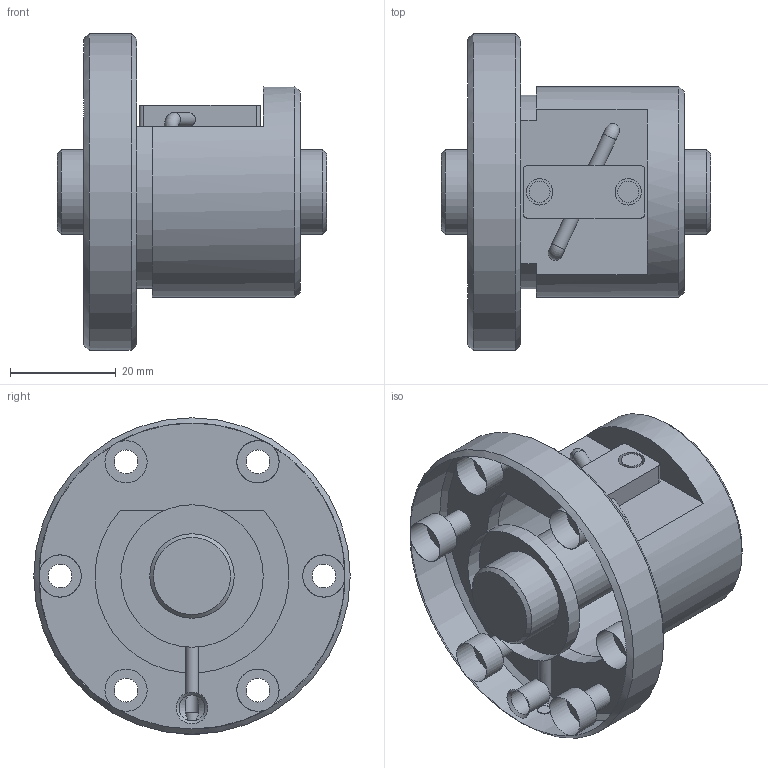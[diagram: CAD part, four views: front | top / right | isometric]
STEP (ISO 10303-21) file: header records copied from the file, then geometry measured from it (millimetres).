
FILE_DESCRIPTION(/* description */ ('STEP AP203'),/* implementation_level */ '2;1');
FILE_NAME(/* name */ 'BNF1605V-2.5RRG1+51LC0_000_rev',/* time_stamp */ '2024-08-06T07:27:21+02:00',/* author */ ('License CC BY-ND 4.0'),/* organization */ ('CADENAS'),/* preprocessor_version */ 'ST-DEVELOPER v19.3',/* originating_system */ 'PARTsolutions',/* authorisation */ ' ');
FILE_SCHEMA (('CONFIG_CONTROL_DESIGN'));
Length unit declared in the file: millimetre
Products named in the file (3): BNF1605V-2.5RRG1+51LC0_000_rev; BNF 1605-2.5RR000 Shaft; BNF 1605-2.5RR Nut
Assembly tree (2 placements, depth 2):
  BNF1605V-2.5RRG1+51LC0_000_rev
    BNF 1605-2.5RR000 Shaft
    BNF 1605-2.5RR Nut
Bounding box: 51 x 60 x 60 mm (x, y, z)
Volume: 61221.2 mm3; surface area: 18051.5 mm2
Topology: 2 solids, 2 shells, 70 faces, 163 edges, 104 vertices
Faces by surface type: cylinder 33, plane 27, cone 8, torus 2
Full cylindrical faces by diameter (mm): 2.5 x2, 2.665 x2, 4 x2, 4.5 x6, 4.917 x1, 5 x2, 8 x6, 16 x2, 27 x2, 40 x1, 60 x1
Entity records: 1829 total; most frequent: DIRECTION 326, CARTESIAN_POINT 317, ORIENTED_EDGE 220, AXIS2_PLACEMENT_3D 151, EDGE_LOOP 134, FACE_BOUND 134, EDGE_CURVE 110, VERTEX_POINT 88
